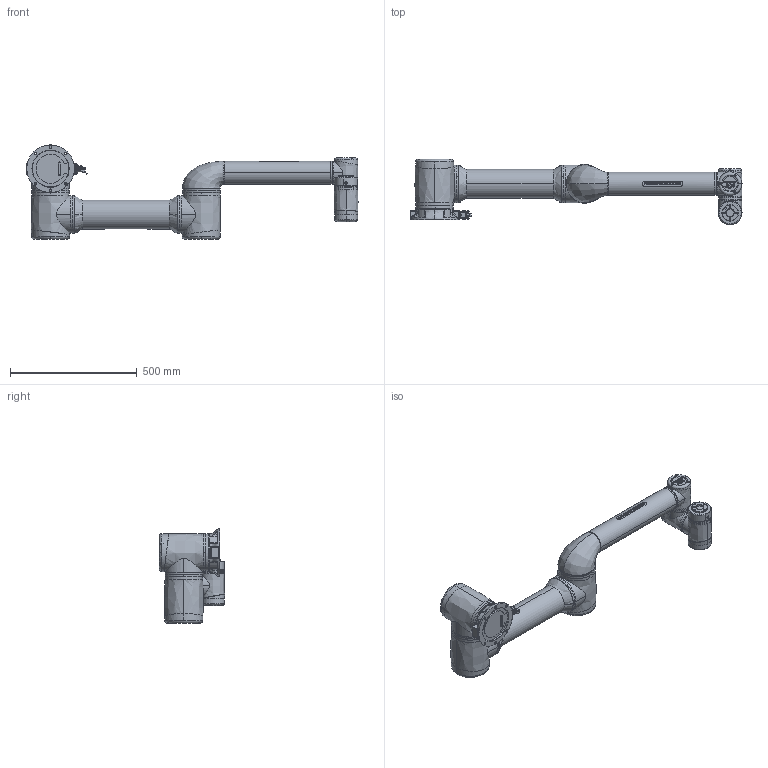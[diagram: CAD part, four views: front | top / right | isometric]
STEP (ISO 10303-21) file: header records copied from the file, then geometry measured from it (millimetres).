
FILE_DESCRIPTION (( 'STEP AP214' ), '1' );
FILE_NAME ('Zu 12.STEP', '2024-11-25T14:53:20', ( '' ), ( '' ), 'SwSTEP 2.0', 'SolidWorks 2024', '' );
FILE_SCHEMA (( 'AUTOMOTIVE_DESIGN' ));
Length unit declared in the file: millimetre
Products named in the file (8): Zu 12 02_默认; Zu 12; Zu 12 04_默认; Zu 12 06_默认; Zu 12 03_默认; Zu 12 01_默认; Zu 12 05_默认; Zu 12 00_默认
Assembly tree (7 placements, depth 2):
  Zu 12
    Zu 12 00_默认
    Zu 12 01_默认
    Zu 12 02_默认
    Zu 12 03_默认
    Zu 12 04_默认
    Zu 12 05_默认
    Zu 12 06_默认
Bounding box: 1310.68 x 257.9 x 372.15 mm (x, y, z)
Volume: 24219780.6 mm3; surface area: 1216487.3 mm2
Topology: 15 solids, 22 shells, 3292 faces, 8725 edges, 5669 vertices
Faces by surface type: bspline 1449, plane 1141, cylinder 549, torus 97, cone 56
Entity records: 138736 total; most frequent: CARTESIAN_POINT 66761, ORIENTED_EDGE 17406, DIRECTION 10378, EDGE_CURVE 8703, VERTEX_POINT 5669, LINE 4264, VECTOR 4264, EDGE_LOOP 3560
